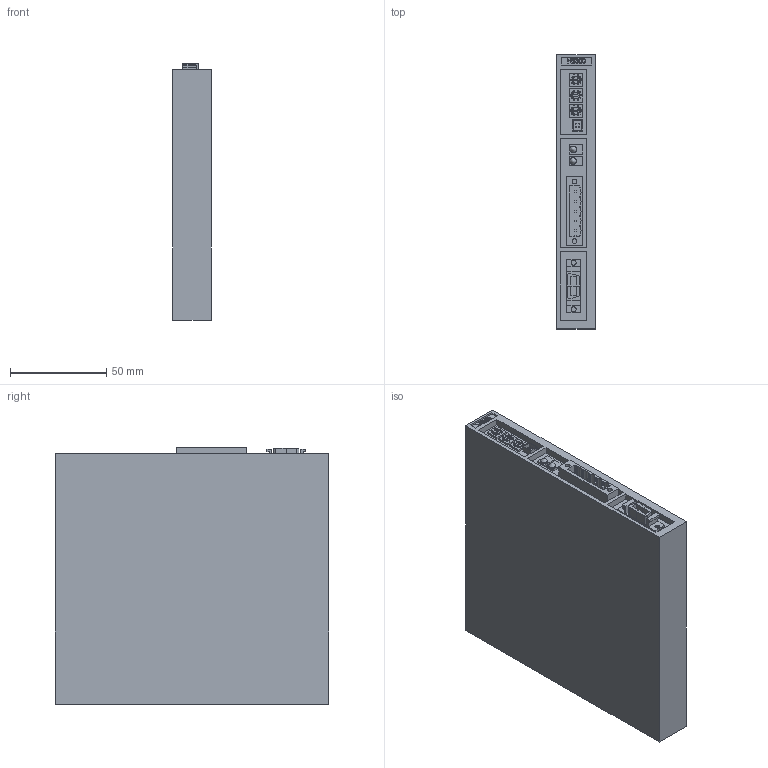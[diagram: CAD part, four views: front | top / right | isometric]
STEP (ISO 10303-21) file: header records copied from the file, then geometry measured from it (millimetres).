
FILE_DESCRIPTION (( 'STEP AP203' ), '1' );
FILE_NAME ('NS300.STEP', '2007-08-28T17:05:12', ( 'Yaskawa' ), ( 'Yaskawa' ), 'SwSTEP 2.0', 'SolidWorks 2007', '' );
FILE_SCHEMA (( 'CONFIG_CONTROL_DESIGN' ));
Length unit declared in the file: millimetre
Products named in the file (6): CN-4 Connector_F1; NS300; CN-4 Connector_F2; 5 Pole; 10-way Selection Switch
Assembly tree (7 placements, depth 2):
  NS300
    NS300
    10-way Selection Switch  x3
    CN-4 Connector_F1
    CN-4 Connector_F2
    5 Pole
Bounding box: 20 x 142 x 133 mm (x, y, z)
Volume: 362332.1 mm3; surface area: 55145.7 mm2
Topology: 7 solids, 7 shells, 1935 faces, 5178 edges, 3452 vertices
Faces by surface type: plane 1249, bspline 641, cylinder 45
Entity records: 74418 total; most frequent: CARTESIAN_POINT 36072, ORIENTED_EDGE 8784, DIRECTION 5760, EDGE_CURVE 4392, VECTOR 3328, LINE 3328, VERTEX_POINT 2928, EDGE_LOOP 1800
